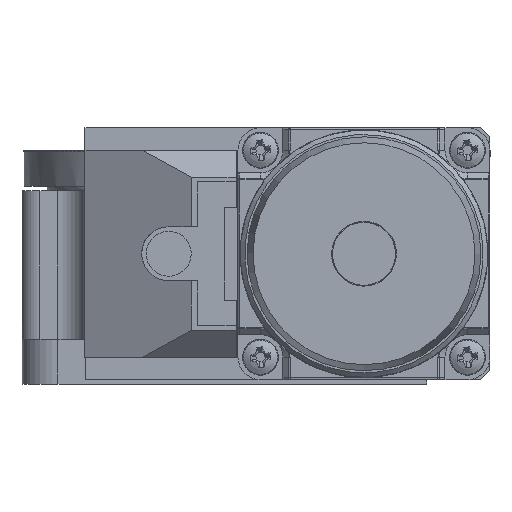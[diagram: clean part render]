
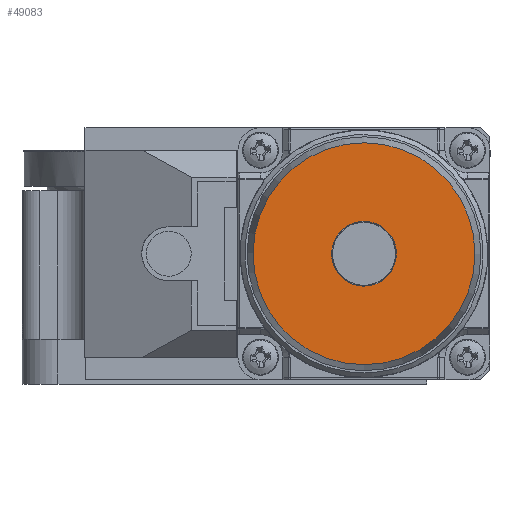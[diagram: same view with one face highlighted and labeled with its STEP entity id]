
A CAD part, front view. The second image highlights one B-rep face of the part: STEP entity #49083.
In plain terms, the highlighted planar face has unit normal (0, -1, 0).
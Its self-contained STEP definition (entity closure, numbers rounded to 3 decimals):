
#11635=FACE_BOUND('',#17099,.T.);
#11636=FACE_BOUND('',#17100,.T.);
#17099=EDGE_LOOP('',(#44433));
#17100=EDGE_LOOP('',(#44434));
#18315=CIRCLE('',#52126,3.6);
#18317=CIRCLE('',#52130,12.33);
#23110=VERTEX_POINT('',#149652);
#23112=VERTEX_POINT('',#149658);
#30263=EDGE_CURVE('',#23110,#23110,#18315,.T.);
#30265=EDGE_CURVE('',#23112,#23112,#18317,.T.);
#44433=ORIENTED_EDGE('',*,*,#30263,.T.);
#44434=ORIENTED_EDGE('',*,*,#30265,.T.);
#46492=PLANE('',#52131);
#49083=ADVANCED_FACE('',(#11635,#11636),#46492,.T.);
#52126=AXIS2_PLACEMENT_3D('',#149653,#62269,#62270);
#52130=AXIS2_PLACEMENT_3D('',#149659,#62277,#62278);
#52131=AXIS2_PLACEMENT_3D('',#149660,#62279,#62280);
#62269=DIRECTION('center_axis',(0.,1.,0.));
#62270=DIRECTION('ref_axis',(-0.763,0.,
0.646));
#62277=DIRECTION('center_axis',(0.,-1.,0.));
#62278=DIRECTION('ref_axis',(-0.763,0.,
0.646));
#62279=DIRECTION('center_axis',(0.,-1.,0.));
#62280=DIRECTION('ref_axis',(-0.763,0.,0.646));
#149652=CARTESIAN_POINT('',(1.09,-93.537,3.975));
#149653=CARTESIAN_POINT('Origin',(3.839,-93.537,1.65));
#149658=CARTESIAN_POINT('',(-5.575,-93.537,9.613));
#149659=CARTESIAN_POINT('Origin',(3.839,-93.537,1.65));
#149660=CARTESIAN_POINT('Origin',(-0.868,-93.537,
5.632));
